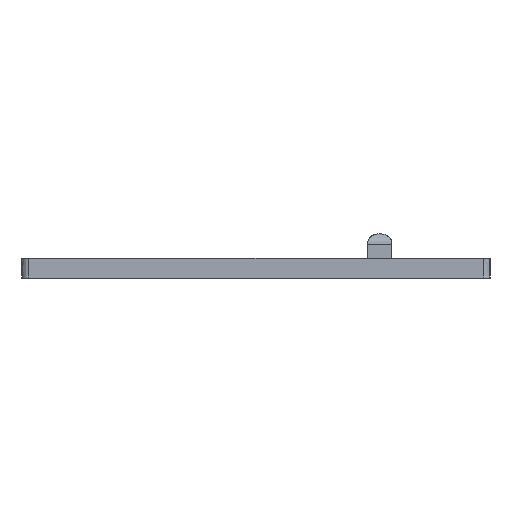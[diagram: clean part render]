
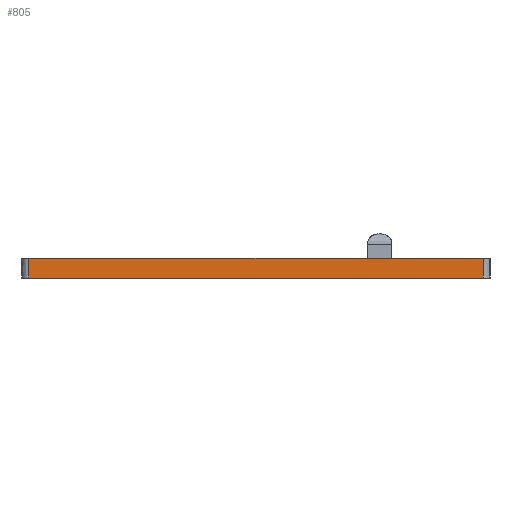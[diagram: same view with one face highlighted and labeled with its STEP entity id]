
A CAD part, left-side view. The second image highlights one B-rep face of the part: STEP entity #805.
In plain terms, the highlighted planar face has unit normal (-1, 0, 0).
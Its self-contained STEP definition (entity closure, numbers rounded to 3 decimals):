
#115=LINE('',#1185,#162);
#124=LINE('',#1343,#171);
#162=VECTOR('',#932,10.);
#171=VECTOR('',#983,10.);
#212=PLANE('',#895);
#231=FACE_OUTER_BOUND('',#314,.T.);
#314=EDGE_LOOP('',(#656,#657,#658,#659));
#350=B_SPLINE_CURVE_WITH_KNOTS('',3,(#1170,#1171,#1172,#1173),
 .UNSPECIFIED.,.F.,.F.,(4,4),(0.,0.4),.UNSPECIFIED.);
#355=B_SPLINE_CURVE_WITH_KNOTS('',3,(#1293,#1294,#1295,#1296),
 .UNSPECIFIED.,.F.,.F.,(4,4),(-0.4,0.),.UNSPECIFIED.);
#375=VERTEX_POINT('',#1142);
#378=VERTEX_POINT('',#1159);
#381=VERTEX_POINT('',#1184);
#409=VERTEX_POINT('',#1292);
#452=EDGE_CURVE('',#378,#375,#350,.T.);
#456=EDGE_CURVE('',#375,#381,#115,.T.);
#485=EDGE_CURVE('',#381,#409,#355,.T.);
#493=EDGE_CURVE('',#378,#409,#124,.T.);
#656=ORIENTED_EDGE('',*,*,#452,.F.);
#657=ORIENTED_EDGE('',*,*,#493,.T.);
#658=ORIENTED_EDGE('',*,*,#485,.F.);
#659=ORIENTED_EDGE('',*,*,#456,.F.);
#805=ADVANCED_FACE('',(#231),#212,.T.);
#895=AXIS2_PLACEMENT_3D('',#1455,#1032,#1033);
#932=DIRECTION('',(0.,1.,0.));
#983=DIRECTION('',(0.,1.,0.));
#1032=DIRECTION('center_axis',(-1.,0.,0.));
#1033=DIRECTION('ref_axis',(0.,1.,0.));
#1142=CARTESIAN_POINT('',(6.523,1.414,0.));
#1159=CARTESIAN_POINT('',(6.523,1.414,4.));
#1170=CARTESIAN_POINT('Ctrl Pts',(6.523,1.414,4.));
#1171=CARTESIAN_POINT('Ctrl Pts',(6.523,1.414,2.667));
#1172=CARTESIAN_POINT('Ctrl Pts',(6.523,1.414,1.333));
#1173=CARTESIAN_POINT('Ctrl Pts',(6.523,1.414,0.));
#1184=CARTESIAN_POINT('',(6.523,94.086,0.));
#1185=CARTESIAN_POINT('',(6.523,0.,0.));
#1292=CARTESIAN_POINT('',(6.523,94.086,4.));
#1293=CARTESIAN_POINT('Ctrl Pts',(6.523,94.086,0.));
#1294=CARTESIAN_POINT('Ctrl Pts',(6.523,94.086,1.333));
#1295=CARTESIAN_POINT('Ctrl Pts',(6.523,94.086,2.667));
#1296=CARTESIAN_POINT('Ctrl Pts',(6.523,94.086,4.));
#1343=CARTESIAN_POINT('',(6.523,0.,4.));
#1455=CARTESIAN_POINT('Origin',(6.523,0.,4.));
